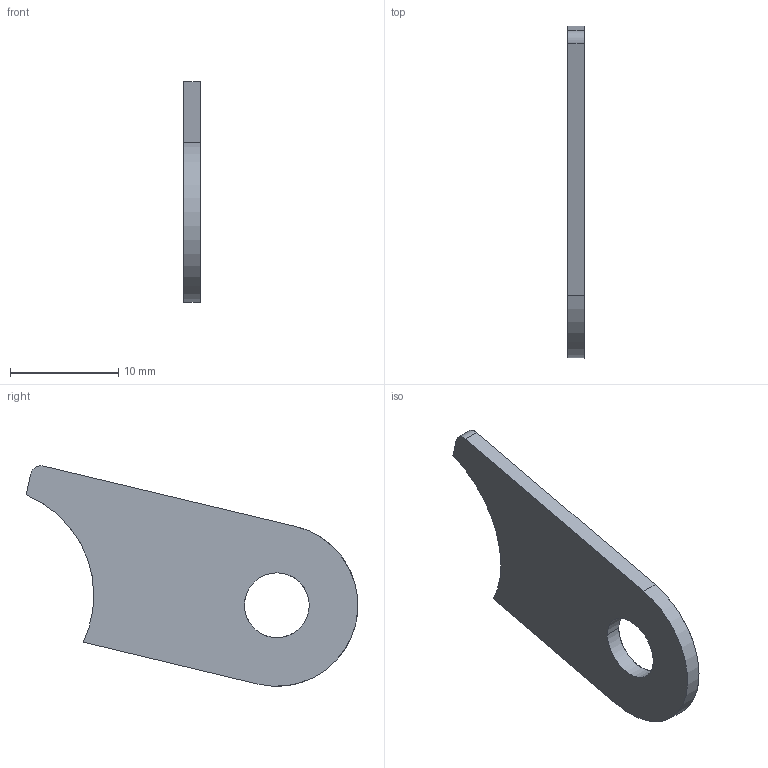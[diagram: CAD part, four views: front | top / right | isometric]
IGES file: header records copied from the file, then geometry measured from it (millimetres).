
Start section: START RECORD GO HERE.
Global section: file name: 20M_EN_06120 (Chape Chain shield haut tube).igs; native system: IBM CATIA IGES - CATIA Version 5 Release 19 ; preprocessor: CATIA Version 5 Release 19 ; author: Calixthe; organization: MACHINEDECALOU; date: 20200123.091809; units: millimetre
Bounding box: 1.5 x 30.71 x 20.4 mm (x, y, z)
Surface area: 858.9 mm2 (no closed solid volume)
Topology: 0 solids, 0 shells, 11 faces, 54 edges, 54 vertices
Faces by surface type: revolution 6, plane 5
